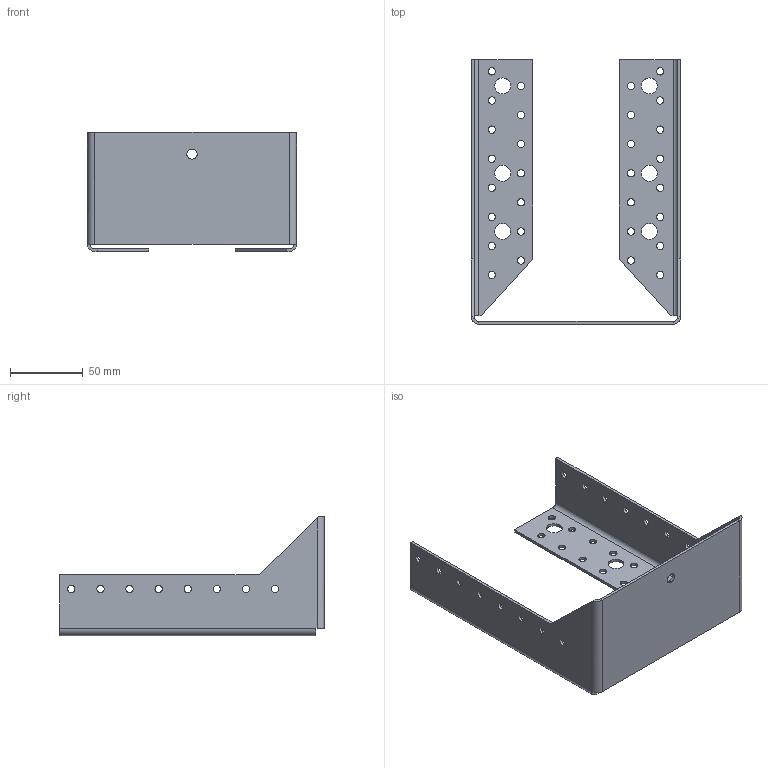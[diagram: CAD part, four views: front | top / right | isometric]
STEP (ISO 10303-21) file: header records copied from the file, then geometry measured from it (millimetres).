
FILE_DESCRIPTION (( 'STEP AP203' ), '1' );
FILE_NAME ('30514IKO.STEP', '2020-04-09T09:58:39', ( '' ), ( '' ), 'SwSTEP 2.0', 'SolidWorks 2013', '' );
FILE_SCHEMA (( 'CONFIG_CONTROL_DESIGN' ));
Length unit declared in the file: millimetre
Products named in the file (1): 30514IKO
Bounding box: 143.72 x 181.86 x 82 mm (x, y, z)
Volume: 76502.4 mm3; surface area: 80878.9 mm2
Topology: 1 solids, 1 shells, 150 faces, 416 edges, 268 vertices
Faces by surface type: cylinder 114, plane 34, bspline 2
Entity records: 5185 total; most frequent: DIRECTION 934, CARTESIAN_POINT 869, ORIENTED_EDGE 832, EDGE_CURVE 416, AXIS2_PLACEMENT_3D 377, VERTEX_POINT 268, EDGE_LOOP 256, CIRCLE 228
